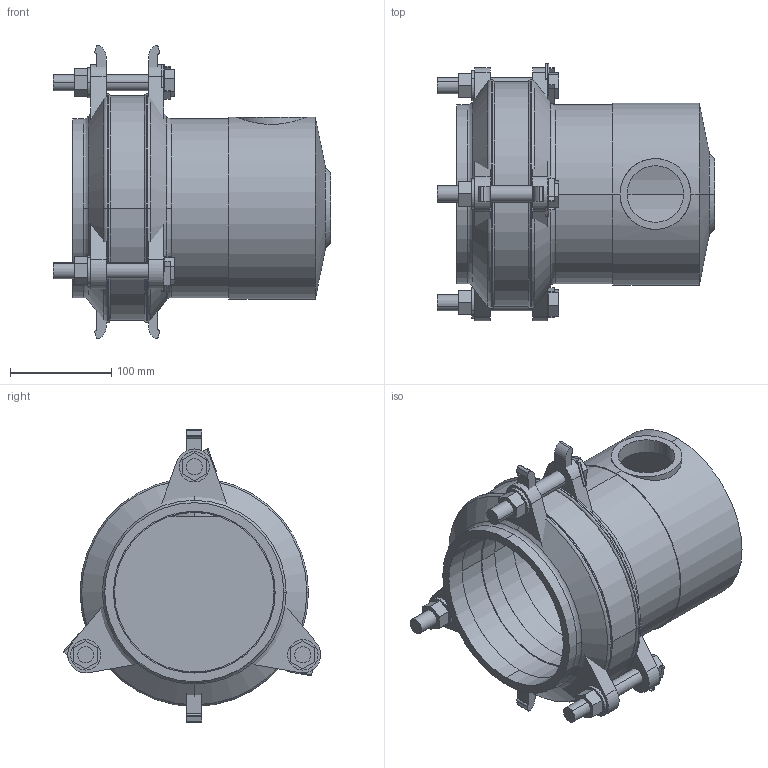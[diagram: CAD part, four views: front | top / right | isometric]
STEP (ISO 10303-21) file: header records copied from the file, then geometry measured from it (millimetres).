
FILE_DESCRIPTION(('STEP AP214'),'1');
FILE_NAME('HDA0004730 DN 125 radial.STP','2015-02-06T10:20:26',(' '),(' '),'Spatial InterOp 3D',' ',' ');
FILE_SCHEMA(('automotive_design'));
Length unit declared in the file: millimetre
Products named in the file (36): 3D-Objekt
Bounding box: 274 x 254.75 x 290 mm (x, y, z)
Volume: 2289244.9 mm3; surface area: 625305.1 mm2
Topology: 36 solids, 36 shells, 287 faces, 637 edges, 422 vertices
Faces by surface type: plane 184, cylinder 79, cone 12, torus 12
Entity records: 11442 total; most frequent: CARTESIAN_POINT 1725, DIRECTION 1487, ORIENTED_EDGE 1274, EDGE_CURVE 637, AXIS2_PLACEMENT_3D 533, VERTEX_POINT 422, LINE 421, VECTOR 421
